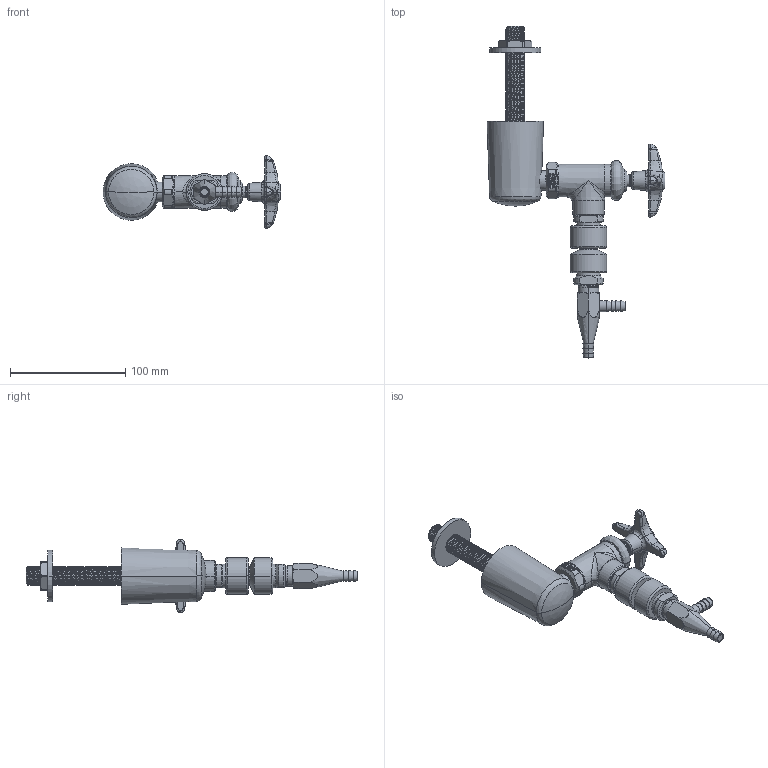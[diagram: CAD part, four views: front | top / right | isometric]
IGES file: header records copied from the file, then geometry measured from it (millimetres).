
Start section:  PTC IGES file: LWV2-C61-10.igs
Global section: file name: LWV2-C61-10.igs; native system: Creo Parametric by PTC Inc.; preprocessor: 2014500; author: usch_engrender; organization: Unknown; date: 20151113.094301; units: inch
Bounding box: 154.39 x 288.04 x 63.41 mm (x, y, z)
Volume: 240708.4 mm3; surface area: 58596.3 mm2
Topology: 1 solids, 3 shells, 866 faces, 2087 edges, 1260 vertices
Faces by surface type: revolution 444, bspline 422
